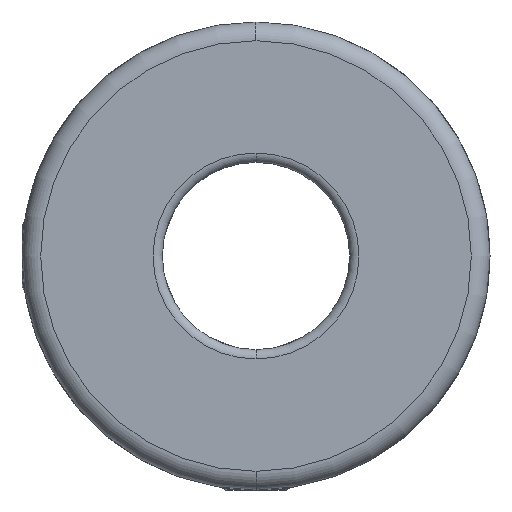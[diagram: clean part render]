
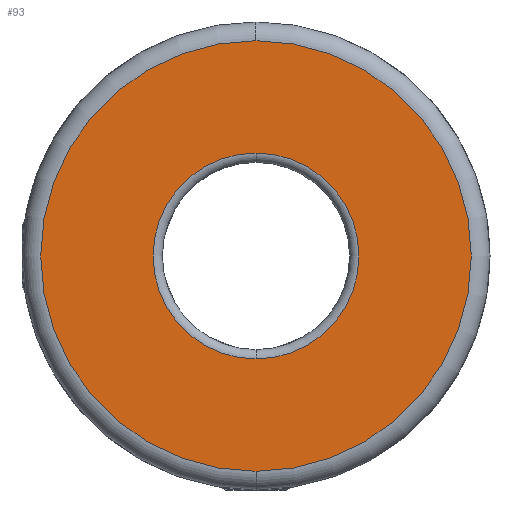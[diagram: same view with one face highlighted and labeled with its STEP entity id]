
A CAD part, left-side view. The second image highlights one B-rep face of the part: STEP entity #93.
In plain terms, the highlighted planar face has unit normal (-1, 0, 0).
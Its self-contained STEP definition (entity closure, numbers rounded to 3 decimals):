
#93 = ADVANCED_FACE ( 'NONE', ( #1780, #1818 ), #2353, .F. ) ;
#137 = ORIENTED_EDGE ( 'NONE', *, *, #2392, .T. ) ;
#237 = CIRCLE ( 'NONE', #882, 5.5 ) ;
#252 = CIRCLE ( 'NONE', #920, 11.5 ) ;
#665 = CARTESIAN_POINT ( 'NONE',  ( -15.5, 0., -11.5 ) ) ;
#680 = CIRCLE ( 'NONE', #4329, 11.5 ) ;
#882 = AXIS2_PLACEMENT_3D ( 'NONE', #1155, #1000, #986 ) ;
#920 = AXIS2_PLACEMENT_3D ( 'NONE', #2275, #2255, #2238 ) ;
#986 = DIRECTION ( 'NONE',  ( 0., 0., -1. ) ) ;
#1000 = DIRECTION ( 'NONE',  ( 1., 0., 0. ) ) ;
#1155 = CARTESIAN_POINT ( 'NONE',  ( -15.5, 0., 0. ) ) ;
#1163 = ORIENTED_EDGE ( 'NONE', *, *, #4210, .T. ) ;
#1353 = VERTEX_POINT ( 'NONE', #4472 ) ;
#1495 = CARTESIAN_POINT ( 'NONE',  ( -15.5, 0., 0. ) ) ;
#1497 = EDGE_CURVE ( 'NONE', #2862, #3316, #252, .T. ) ;
#1569 = EDGE_CURVE ( 'NONE', #1353, #3036, #237, .T. ) ;
#1674 = AXIS2_PLACEMENT_3D ( 'NONE', #2532, #2346, #2335 ) ;
#1780 = FACE_BOUND ( 'NONE', #2258, .T. ) ;
#1818 = FACE_OUTER_BOUND ( 'NONE', #2616, .T. ) ;
#1855 = DIRECTION ( 'NONE',  ( 0., 0., -1. ) ) ;
#1926 = ORIENTED_EDGE ( 'NONE', *, *, #1569, .T. ) ;
#2238 = DIRECTION ( 'NONE',  ( 0., 0., -1. ) ) ;
#2255 = DIRECTION ( 'NONE',  ( -1., 0., 0. ) ) ;
#2258 = EDGE_LOOP ( 'NONE', ( #1926, #1163 ) ) ;
#2275 = CARTESIAN_POINT ( 'NONE',  ( -15.5, 0., 0. ) ) ;
#2335 = DIRECTION ( 'NONE',  ( 0., 0., -1. ) ) ;
#2346 = DIRECTION ( 'NONE',  ( 1., 0., 0. ) ) ;
#2353 = PLANE ( 'NONE',  #1674 ) ;
#2392 = EDGE_CURVE ( 'NONE', #3316, #2862, #680, .T. ) ;
#2532 = CARTESIAN_POINT ( 'NONE',  ( -15.5, 0., 0. ) ) ;
#2616 = EDGE_LOOP ( 'NONE', ( #3332, #137 ) ) ;
#2862 = VERTEX_POINT ( 'NONE', #665 ) ;
#3036 = VERTEX_POINT ( 'NONE', #4298 ) ;
#3238 = CIRCLE ( 'NONE', #3971, 5.5 ) ;
#3316 = VERTEX_POINT ( 'NONE', #4006 ) ;
#3332 = ORIENTED_EDGE ( 'NONE', *, *, #1497, .T. ) ;
#3784 = DIRECTION ( 'NONE',  ( 0., 0., -1. ) ) ;
#3798 = DIRECTION ( 'NONE',  ( -1., 0., 0. ) ) ;
#3827 = CARTESIAN_POINT ( 'NONE',  ( -15.5, 0., 0. ) ) ;
#3876 = DIRECTION ( 'NONE',  ( 1., 0., 0. ) ) ;
#3971 = AXIS2_PLACEMENT_3D ( 'NONE', #1495, #3876, #1855 ) ;
#4006 = CARTESIAN_POINT ( 'NONE',  ( -15.5, 0., 11.5 ) ) ;
#4210 = EDGE_CURVE ( 'NONE', #3036, #1353, #3238, .T. ) ;
#4298 = CARTESIAN_POINT ( 'NONE',  ( -15.5, 0., 5.5 ) ) ;
#4329 = AXIS2_PLACEMENT_3D ( 'NONE', #3827, #3798, #3784 ) ;
#4472 = CARTESIAN_POINT ( 'NONE',  ( -15.5, 0., -5.5 ) ) ;
